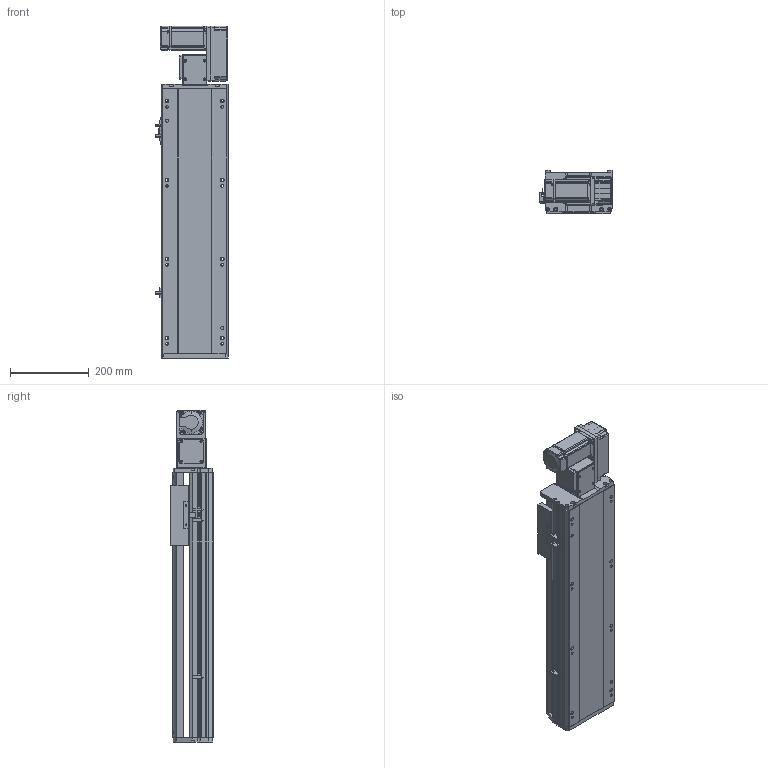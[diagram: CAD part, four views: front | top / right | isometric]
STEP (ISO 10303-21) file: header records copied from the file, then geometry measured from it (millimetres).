
FILE_DESCRIPTION (( 'STEP AP214' ), '1' );
FILE_NAME ('RTB17S-XX-400-R-M40-C4.STEP', '2025-12-11T07:33:15', ( '' ), ( '' ), 'SwSTEP 2.0', 'SolidWorks 2018', '' );
FILE_SCHEMA (( 'AUTOMOTIVE_DESIGN' ));
Length unit declared in the file: millimetre
Products named in the file (14): RTB17S-L-014-T20--々湍釱^RTB17S-R-々湍釱蚾饜-400W_RTB17S-XX-XX-R-M40-C4; RTB14-L-005P--轴承塑胶压盖^RTB17S-R-皮带座装配-400W_RTB17S-XX-XX-R-M40-C4; RTB14-L-018P^RTB17S-R-々湍釱蚾饜-400W_RTB17S-XX-XX-R-M40-C4; RTB14-L-008-M20--萇儂啣^RTB17S-R-々湍釱蚾饜-400W_RTB17S-XX-XX-R-M40-C4; RTB14-L-017P^RTB17S-R-々湍釱蚾饜-400W_RTB17S-XX-XX-R-M40-C4; RTB17S-L-001耜醱啣^RTB17S-XX-XX-R-M40-C4; RTB17S-L-007奻裔^RTB17S-XX-XX-R-M40-C4; RTB17S-XX-400-R-M40-C4; OMRON EE-SX672 传感器^RTB17S-XX-XX-R-M40-C4; RTB17S-R-々湍釱蚾饜-400W^RTB17S-XX-XX-R-M40-C4; RTB17-R-011菁釱^RTB17S-XX-XX-R-M40-C4; 400W侜督萇儂^RTB17S-XX-XX-R-M40-C4; RTH13-BL-012覜茼え俋离^RTB17S-XX-XX-R-M40-C4; RTB17S-L-004佪裝蹟譫蟀諉釱^RTB17S-XX-XX-R-M40-C4
Assembly tree (16 placements, depth 3):
  RTB17S-XX-400-R-M40-C4
    RTB17-R-011菁釱^RTB17S-XX-XX-R-M40-C4
    RTB17S-L-007奻裔^RTB17S-XX-XX-R-M40-C4
    OMRON EE-SX672 传感器^RTB17S-XX-XX-R-M40-C4  x3
    RTB17S-L-001耜醱啣^RTB17S-XX-XX-R-M40-C4
    400W侜督萇儂^RTB17S-XX-XX-R-M40-C4
    RTB17S-L-004佪裝蹟譫蟀諉釱^RTB17S-XX-XX-R-M40-C4
    RTH13-BL-012覜茼え俋离^RTB17S-XX-XX-R-M40-C4
    RTB17S-R-々湍釱蚾饜-400W^RTB17S-XX-XX-R-M40-C4
      RTB17S-L-014-T20--々湍釱^RTB17S-R-々湍釱蚾饜-400W_RTB17S-XX-XX-R-M40-C4
      RTB14-L-005P--轴承塑胶压盖^RTB17S-R-皮带座装配-400W_RTB17S-XX-XX-R-M40-C4
      RTB14-L-008-M20--萇儂啣^RTB17S-R-々湍釱蚾饜-400W_RTB17S-XX-XX-R-M40-C4
      RTB14-L-017P^RTB17S-R-々湍釱蚾饜-400W_RTB17S-XX-XX-R-M40-C4  x2
      RTB14-L-018P^RTB17S-R-々湍釱蚾饜-400W_RTB17S-XX-XX-R-M40-C4
Bounding box: 183.5 x 108 x 841 mm (x, y, z)
Volume: 7484045.1 mm3; surface area: 963590.7 mm2
Topology: 15 solids, 15 shells, 2157 faces, 5925 edges, 3861 vertices
Faces by surface type: plane 1062, cylinder 647, bspline 301, cone 139, torus 8
Entity records: 60329 total; most frequent: CARTESIAN_POINT 16730, ORIENTED_EDGE 8694, DIRECTION 8126, EDGE_CURVE 4347, VERTEX_POINT 2849, AXIS2_PLACEMENT_3D 2779, LINE 2568, VECTOR 2568
